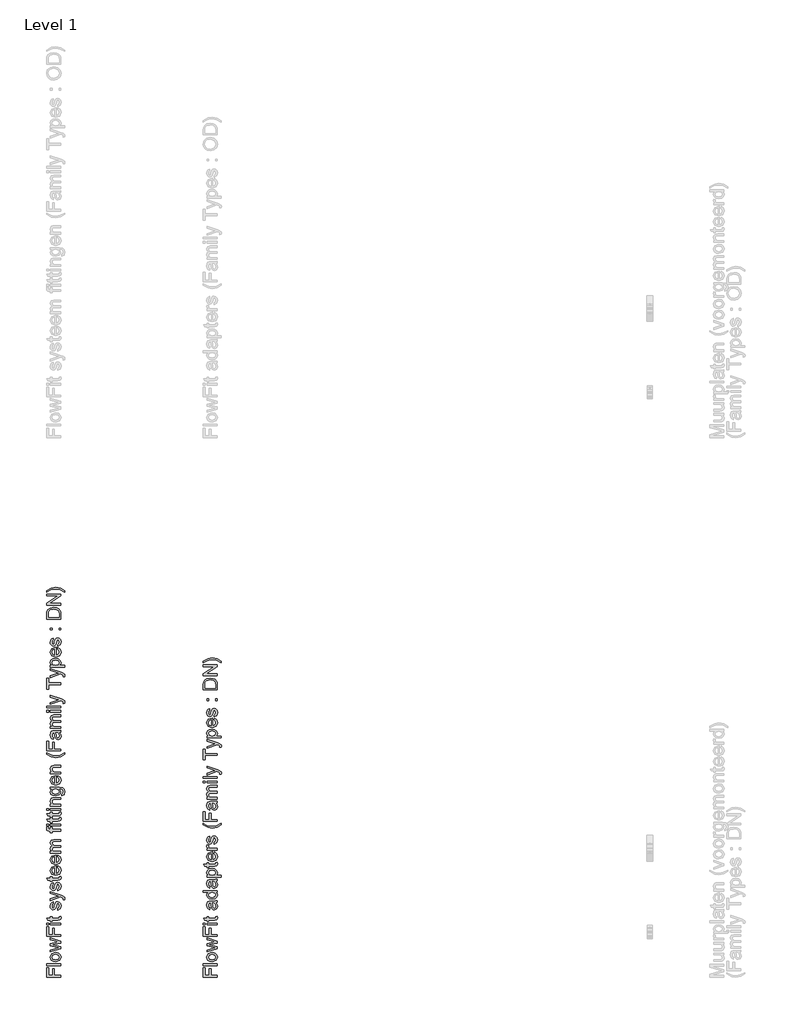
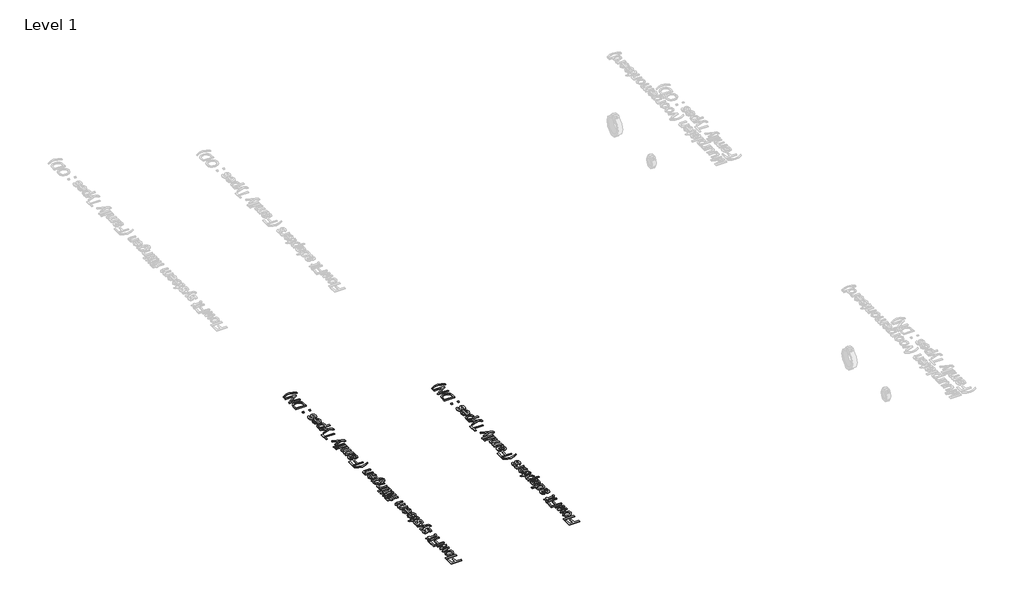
# One storey, part 3 of 11: 2 proxies.
"""IFC4 building model written with IfcOpenShell, lengths in millimetres."""

from ifc_helpers import new_model, si_unit, origin, origin_with_axes, place, context, project, spatial, polyline, outline, extrude, element, save

model = new_model("IFC4")

# Units and contexts
model_context = context("Model", 3, world=origin())
ifc_project = project(units=[si_unit("LENGTHUNIT", "METRE", prefix="MILLI")], contexts=[model_context])

# Site, building, storey
site = spatial("IfcSite", under=ifc_project)
building = spatial("IfcBuilding", under=site)
storey = spatial("IfcBuildingStorey", under=building, Name="Level 1", Elevation=0.0)

# Proxies
placement = place(None, origin())
element("IfcBuildingElementProxy", 1, Name="S", ObjectType="S", at=placement, inside=storey, context=model_context, shape_type="SweptSolid", body=[
    extrude(outline(polyline([(191.7931305, 128.4123634), (141.5649754, 128.4123634), (141.5649754, 162.1594051), (147.8434948, 162.1594051), (147.8434948, 134.6908828), (162.7549783, 134.6908828), (162.7549783, 158.2353305), (169.0334977, 158.2353305), (169.0334977, 134.6908828), (191.7931305, 134.6908828), (191.7931305, 128.4123634)])), origin_with_axes(), (0.0, 0.0, 1.0), 3.0),
    extrude(outline(polyline([(191.7931305, 170.0075544), (141.5649754, 170.0075544), (141.5649754, 176.2860737), (191.7931305, 176.2860737), (191.7931305, 170.0075544)])), origin_with_axes(), (0.0, 0.0, 1.0), 3.0),
    extrude(outline(polyline([(173.3499798, 184.134223), (164.4564326, 185.4923207), (158.2055043, 189.5666138), (154.1220142, 200.6275991), (159.0945525, 212.4917934), (172.834945, 217.0964497), (184.0062949, 215.060836), (190.3277339, 209.1318045), (192.5779454, 200.6275991), (187.6238012, 188.6898283), (173.3499798, 184.134223)]), holes=[polyline([(173.3377171, 190.4127424), (183.0681958, 193.3190101), (186.299426, 200.6275991), (183.0498017, 207.9116626), (173.1415133, 210.8179304), (163.6317638, 207.8932685), (160.4005336, 200.6275991), (163.619501, 193.3190101), (173.3377171, 190.4127424)])]), origin_with_axes(), (0.0, 0.0, 1.0), 3.0),
    extrude(outline(polyline([(191.7931305, 230.2788879), (154.9068291, 219.058487), (154.9068291, 225.5822611), (176.4279258, 231.9466196), (184.1166595, 233.8473433), (176.7099687, 235.4047104), (154.9068291, 240.4692192), (154.9068291, 247.9494864), (176.648655, 252.9894697), (183.3563701, 254.3751586), (176.280773, 256.3617214), (154.9068291, 262.7383426), (154.9068291, 269.2866421), (191.7931305, 257.9804021), (191.7931305, 250.3897703), (170.1616692, 245.5705162), (163.4171659, 244.1725646), (191.7931305, 237.9553589), (191.7931305, 230.2788879)])), origin_with_axes(), (0.0, 0.0, 1.0), 3.0),
    extrude(outline(polyline([(191.7931305, 274.3879391), (141.5649754, 274.3879391), (141.5649754, 308.1349808), (147.8434948, 308.1349808), (147.8434948, 280.6664585), (162.7549783, 280.6664585), (162.7549783, 304.2109062), (169.0334977, 304.2109062), (169.0334977, 280.6664585), (191.7931305, 280.6664585), (191.7931305, 274.3879391)])), origin_with_axes(), (0.0, 0.0, 1.0), 3.0),
    extrude(outline(polyline([(191.7931305, 315.98313), (154.9068291, 315.98313), (154.9068291, 322.2616494), (191.7931305, 322.2616494), (191.7931305, 315.98313)])), origin_with_axes(), (0.0, 0.0, 1.0), 3.0),
    extrude(outline(polyline([(147.8434948, 315.98313), (141.5649754, 315.98313), (141.5649754, 322.2616494), (147.8434948, 322.2616494), (147.8434948, 315.98313)])), origin_with_axes(), (0.0, 0.0, 1.0), 3.0),
    extrude(outline(polyline([(186.5569434, 345.0212822), (191.9770715, 345.8060971), (192.5779454, 341.1094703), (191.5356131, 335.8487578), (188.8010236, 333.2245329), (181.6763756, 332.4642434), (161.1853485, 332.4642434), (161.1853485, 327.7553539), (154.9068291, 327.7553539), (154.9068291, 332.4642434), (145.9427712, 332.4642434), (142.2516885, 338.7427628), (154.9068291, 338.7427628), (154.9068291, 345.0212822), (161.1853485, 345.0212822), (161.1853485, 338.7427628), (181.4924346, 338.7427628), (184.7297962, 339.0738566), (186.299426, 342.2866927), (186.5569434, 345.0212822)])), origin_with_axes(), (0.0, 0.0, 1.0), 3.0),
    extrude(outline(polyline([(180.8057216, 368.5657299), (180.0209066, 374.8442493), (184.6807453, 377.750517), (186.299426, 384.4091811), (184.8156353, 390.8103279), (181.3330191, 392.8949925), (178.5125905, 390.7980651), (176.7222314, 384.3356047), (173.6504168, 374.8810375), (170.0635673, 370.7546278), (164.9990585, 369.3505448), (160.3208258, 370.4787163), (156.7462391, 373.5566623), (154.888435, 377.5481819), (154.1220142, 382.9499159), (155.3544189, 390.5895987), (158.6898823, 395.445641), (164.3246082, 397.603882), (165.1094231, 391.3253627), (161.645201, 388.9647865), (160.4005336, 383.4404252), (161.5900187, 377.431686), (164.3613964, 375.6290642), (166.1885436, 376.3770909), (167.5742325, 378.719273), (168.9108704, 384.1271383), (171.8661891, 393.3425823), (175.2139152, 397.6222761), (180.6708315, 399.1735119), (186.6795708, 397.352496), (191.0389724, 392.0979148), (192.5779454, 384.323342), (189.610364, 373.3727213), (180.8057216, 368.5657299)])), origin_with_axes(), (0.0, 0.0, 1.0), 3.0),
    extrude(outline(polyline([(205.9197991, 406.2368462), (199.8742717, 405.4520313), (200.4260946, 408.6403419), (199.7332502, 411.6201861), (197.8018697, 413.4473333), (193.1788193, 415.1641159), (191.6582404, 415.6546253), (154.9068291, 402.3127716), (154.9068291, 408.9346475), (175.3855935, 416.0102445), (183.5770993, 418.4750539), (176.3420867, 420.9398633), (154.9068291, 428.211664), (154.9068291, 434.784489), (192.6760473, 421.9454074), (200.867553, 418.609944), (205.2943997, 414.9679122), (206.704614, 410.0750817), (205.9197991, 406.2368462)])), origin_with_axes(), (0.0, 0.0, 1.0), 3.0),
    extrude(outline(polyline([(180.8057216, 437.6294431), (180.0209066, 443.9079625), (184.6807453, 446.8142303), (186.299426, 453.4728944), (184.8156353, 459.8740411), (181.3330191, 461.9587057), (178.5125905, 459.8617784), (176.7222314, 453.399318), (173.6504168, 443.9447507), (170.0635673, 439.818341), (164.9990585, 438.414258), (160.3208258, 439.5424295), (156.7462391, 442.6203755), (154.888435, 446.6118952), (154.1220142, 452.0136291), (155.3544189, 459.6533119), (158.6898823, 464.5093542), (164.3246082, 466.6675953), (165.1094231, 460.3890759), (161.645201, 458.0284997), (160.4005336, 452.5041385), (161.5900187, 446.4953992), (164.3613964, 444.6927774), (166.1885436, 445.4408041), (167.5742325, 447.7829862), (168.9108704, 453.1908515), (171.8661891, 462.4062955), (175.2139152, 466.6859894), (180.6708315, 468.2372251), (186.6795708, 466.4162092), (191.0389724, 461.1616281), (192.5779454, 453.3870552), (189.610364, 442.4364345), (180.8057216, 437.6294431)])), origin_with_axes(), (0.0, 0.0, 1.0), 3.0),
    extrude(outline(polyline([(186.5569434, 488.6424131), (191.9770715, 489.427228), (192.5779454, 484.7306012), (191.5356131, 479.4698887), (188.8010236, 476.8456638), (181.6763756, 476.0853743), (161.1853485, 476.0853743), (161.1853485, 471.3764848), (154.9068291, 471.3764848), (154.9068291, 476.0853743), (145.9427712, 476.0853743), (142.2516885, 482.3638937), (154.9068291, 482.3638937), (154.9068291, 488.6424131), (161.1853485, 488.6424131), (161.1853485, 482.3638937), (181.4924346, 482.3638937), (184.7297962, 482.6949875), (186.299426, 485.9078236), (186.5569434, 488.6424131)])), origin_with_axes(), (0.0, 0.0, 1.0), 3.0),
    extrude(outline(polyline([(180.8057216, 520.7462486), (181.5905365, 526.9021406), (189.6962031, 521.1447874), (192.5779454, 510.4210272), (187.6054071, 497.3857419), (173.6565481, 492.5664877), (159.2478367, 497.4347928), (154.1220142, 510.065408), (159.2355739, 522.3342725), (173.6197599, 527.0983443), (175.3120171, 527.0615561), (175.3120171, 498.8450071), (183.4667347, 502.456382), (186.299426, 510.5436546), (184.9873136, 516.6995466), (180.8057216, 520.7462486)]), holes=[polyline([(169.0334977, 498.8450071), (169.0334977, 520.819825), (163.3435895, 518.3059647), (160.4005336, 510.0408825), (162.748847, 502.3092292), (169.0334977, 498.8450071)])]), origin_with_axes(), (0.0, 0.0, 1.0), 3.0),
    extrude(outline(polyline([(180.8057216, 559.2021798), (181.5905365, 565.3580718), (189.6962031, 559.6007186), (192.5779454, 548.8769585), (187.6054071, 535.8416731), (173.6565481, 531.022419), (159.2478367, 535.890724), (154.1220142, 548.5213392), (159.2355739, 560.7902037), (173.6197599, 565.5542756), (175.3120171, 565.5174874), (175.3120171, 537.3009383), (183.4667347, 540.9123133), (186.299426, 548.9995858), (184.9873136, 555.1554778), (180.8057216, 559.2021798)]), holes=[polyline([(169.0334977, 537.3009383), (169.0334977, 559.2757562), (163.3435895, 556.7618959), (160.4005336, 548.4968137), (162.748847, 540.7651605), (169.0334977, 537.3009383)])]), origin_with_axes(), (0.0, 0.0, 1.0), 3.0),
    extrude(outline(polyline([(191.7931305, 571.832795), (154.9068291, 571.832795), (154.9068291, 578.1113143), (160.976882, 578.1113143), (156.0043437, 582.4277964), (154.1220142, 588.5714257), (156.0411319, 594.8622079), (161.4183404, 598.3202986), (155.9460957, 603.2192605), (154.1220142, 609.4058094), (157.1570406, 617.6157093), (166.5073747, 620.4913202), (191.7931305, 620.4913202), (191.7931305, 614.2128008), (169.205176, 614.2128008), (163.9628576, 613.630321), (161.3815522, 611.5211309), (160.4005336, 607.9342814), (162.9143939, 601.7599953), (170.9710096, 599.3013173), (191.7931305, 599.3013173), (191.7931305, 593.0227979), (168.5062002, 593.0227979), (162.4238845, 591.569664), (160.4005336, 586.8055922), (161.7494342, 582.1580163), (165.6980343, 579.0678075), (173.1905643, 578.1113143), (191.7931305, 578.1113143), (191.7931305, 571.832795)])), origin_with_axes(), (0.0, 0.0, 1.0), 3.0),
    extrude(outline(polyline([(191.7931305, 651.0991022), (161.1853485, 651.0991022), (161.1853485, 645.6053977), (154.9068291, 645.6053977), (154.9068291, 651.0991022), (151.191221, 651.0991022), (145.9550339, 651.7612898), (142.2149003, 654.9741259), (140.7801605, 661.3016962), (141.4668736, 667.0283926), (147.3529855, 666.1086876), (147.0586799, 662.4911813), (148.1010122, 658.5364499), (151.9882986, 657.3776216), (154.9068291, 657.3776216), (154.9068291, 664.4409559), (161.1853485, 664.4409559), (161.1853485, 657.3776216), (191.7931305, 657.3776216), (191.7931305, 651.0991022)])), origin_with_axes(), (0.0, 0.0, 1.0), 3.0),
    extrude(outline(polyline([(147.8434948, 669.9346603), (141.5649754, 669.9346603), (141.5649754, 676.2131797), (147.8434948, 676.2131797), (147.8434948, 669.9346603)])), origin_with_axes(), (0.0, 0.0, 1.0), 3.0),
    extrude(outline(polyline([(191.7931305, 669.9346603), (154.9068291, 669.9346603), (154.9068291, 676.2131797), (191.7931305, 676.2131797), (191.7931305, 669.9346603)])), origin_with_axes(), (0.0, 0.0, 1.0), 3.0),
    extrude(outline(polyline([(186.5569434, 698.9728125), (191.9770715, 699.7576274), (192.5779454, 695.0610006), (191.5356131, 689.8002881), (188.8010236, 687.1760632), (181.6763756, 686.4157737), (161.1853485, 686.4157737), (161.1853485, 681.7068842), (154.9068291, 681.7068842), (154.9068291, 686.4157737), (145.9427712, 686.4157737), (142.2516885, 692.6942931), (154.9068291, 692.6942931), (154.9068291, 698.9728125), (161.1853485, 698.9728125), (161.1853485, 692.6942931), (181.4924346, 692.6942931), (184.7297962, 693.0253869), (186.299426, 696.238223), (186.5569434, 698.9728125)])), origin_with_axes(), (0.0, 0.0, 1.0), 3.0),
    extrude(outline(polyline([(186.5569434, 718.5931856), (191.9770715, 719.3780005), (192.5779454, 714.6813737), (191.5356131, 709.4206612), (188.8010236, 706.7964363), (181.6763756, 706.0361468), (161.1853485, 706.0361468), (161.1853485, 701.3272573), (154.9068291, 701.3272573), (154.9068291, 706.0361468), (145.9427712, 706.0361468), (142.2516885, 712.3146662), (154.9068291, 712.3146662), (154.9068291, 718.5931856), (161.1853485, 718.5931856), (161.1853485, 712.3146662), (181.4924346, 712.3146662), (184.7297962, 712.64576), (186.299426, 715.8585961), (186.5569434, 718.5931856)])), origin_with_axes(), (0.0, 0.0, 1.0), 3.0),
    extrude(outline(polyline([(147.8434948, 724.8717049), (141.5649754, 724.8717049), (141.5649754, 731.1502243), (147.8434948, 731.1502243), (147.8434948, 724.8717049)])), origin_with_axes(), (0.0, 0.0, 1.0), 3.0),
    extrude(outline(polyline([(191.7931305, 724.8717049), (154.9068291, 724.8717049), (154.9068291, 731.1502243), (191.7931305, 731.1502243), (191.7931305, 724.8717049)])), origin_with_axes(), (0.0, 0.0, 1.0), 3.0),
    extrude(outline(polyline([(191.7931305, 740.5680034), (154.9068291, 740.5680034), (154.9068291, 746.8465228), (160.057177, 746.8465228), (155.6058049, 751.6473828), (154.1220142, 758.2018137), (155.3176307, 764.1308452), (158.4568904, 768.1775471), (163.0738094, 770.0598767), (169.1438623, 770.3909705), (191.7931305, 770.3909705), (191.7931305, 764.1124511), (169.9899909, 764.1124511), (164.4349728, 763.3889498), (161.4980482, 760.83217), (160.4005336, 756.5218193), (162.8653429, 749.709871), (172.2218083, 746.8465228), (191.7931305, 746.8465228), (191.7931305, 740.5680034)])), origin_with_axes(), (0.0, 0.0, 1.0), 3.0),
    extrude(outline(polyline([(194.9323902, 777.4543048), (195.7172051, 783.7328242), (199.0281431, 785.7684379), (200.4260946, 791.8630163), (198.8442021, 798.2886885), (194.4050927, 801.3543717), (187.084241, 801.7835674), (191.7931305, 791.9733809), (190.4227701, 785.5001906), (186.3116888, 780.6732723), (173.1660388, 776.6694899), (163.43556, 778.4659803), (156.5500354, 783.6653791), (154.1220142, 791.6668125), (159.6157186, 801.7835674), (154.9068291, 801.7835674), (154.9068291, 808.0620868), (186.7531472, 808.0620868), (198.9484353, 806.3453041), (204.6199494, 800.906782), (206.704614, 791.7403889), (203.7676894, 781.2986716), (194.9323902, 777.4543048)]), holes=[polyline([(172.7368431, 782.9480093), (182.4550592, 785.6274165), (185.5146111, 792.3535256), (182.4734533, 799.067372), (172.9207841, 801.7835674), (163.5581874, 798.9876642), (160.4005336, 792.2554237), (163.5091364, 785.6642047), (172.7368431, 782.9480093)])]), origin_with_axes(), (0.0, 0.0, 1.0), 3.0),
    extrude(outline(polyline([(180.8057216, 843.3051819), (181.5905365, 849.461074), (189.6962031, 843.7037208), (192.5779454, 832.9799606), (187.6054071, 819.9446752), (173.6565481, 815.1254211), (159.2478367, 819.9937262), (154.1220142, 832.6243413), (159.2355739, 844.8932059), (173.6197599, 849.6572777), (175.3120171, 849.6204895), (175.3120171, 821.4039405), (183.4667347, 825.0153154), (186.299426, 833.1025879), (184.9873136, 839.25848), (180.8057216, 843.3051819)]), holes=[polyline([(169.0334977, 821.4039405), (169.0334977, 843.3787583), (163.3435895, 840.864898), (160.4005336, 832.5998159), (162.748847, 824.8681626), (169.0334977, 821.4039405)])]), origin_with_axes(), (0.0, 0.0, 1.0), 3.0),
    extrude(outline(polyline([(191.7931305, 855.9357971), (154.9068291, 855.9357971), (154.9068291, 862.2143165), (160.057177, 862.2143165), (155.6058049, 867.0151765), (154.1220142, 873.5696074), (155.3176307, 879.4986389), (158.4568904, 883.5453408), (163.0738094, 885.4276704), (169.1438623, 885.7587642), (191.7931305, 885.7587642), (191.7931305, 879.4802448), (169.9899909, 879.4802448), (164.4349728, 878.7567435), (161.4980482, 876.1999637), (160.4005336, 871.889613), (162.8653429, 865.0776647), (172.2218083, 862.2143165), (191.7931305, 862.2143165), (191.7931305, 855.9357971)])), origin_with_axes(), (0.0, 0.0, 1.0), 3.0),
    extrude(outline(polyline([(205.9197991, 926.5691402), (191.1922566, 917.6541332), (173.7055991, 914.0121014), (158.4384963, 916.7344282), (141.5649754, 926.5691402), (141.5649754, 931.2780297), (151.510052, 925.4041805), (161.1485603, 921.8725134), (173.7423873, 920.2906208), (189.8372246, 923.037473), (205.9197991, 931.2780297), (205.9197991, 926.5691402)])), origin_with_axes(), (0.0, 0.0, 1.0), 3.0),
    extrude(outline(polyline([(191.7931305, 938.341364), (141.5649754, 938.341364), (141.5649754, 972.0884057), (147.8434948, 972.0884057), (147.8434948, 944.6198834), (162.7549783, 944.6198834), (162.7549783, 968.1643311), (169.0334977, 968.1643311), (169.0334977, 944.6198834), (191.7931305, 944.6198834), (191.7931305, 938.341364)])), origin_with_axes(), (0.0, 0.0, 1.0), 3.0),
    extrude(outline(polyline([(187.084241, 1003.4810026), (191.3394094, 997.3925556), (192.5779454, 990.6664465), (189.5981013, 981.5491044), (181.982944, 978.3669251), (177.016537, 979.5686729), (173.4112935, 982.7263267), (171.3511543, 987.1225166), (170.4069238, 992.5549074), (168.2486828, 1003.4442144), (162.2154181, 1001.7519573), (160.4005336, 994.8112503), (161.6084128, 988.4591545), (165.894238, 985.4302594), (165.1094231, 979.15174), (158.9780565, 981.8679354), (155.3850757, 987.3371144), (154.1220142, 995.6205907), (155.2379229, 1003.2296166), (158.0399574, 1007.5277046), (162.3012572, 1009.4529537), (167.7949617, 1009.759522), (175.6063227, 1009.759522), (186.5140239, 1010.0783531), (191.7931305, 1011.3291519), (191.7931305, 1005.0506325), (187.084241, 1003.4810026)]), holes=[polyline([(174.5272022, 1003.4810026), (176.4524513, 993.351985), (177.4702581, 987.9502511), (179.1257271, 985.5038358), (181.5414856, 984.6454445), (184.9382626, 986.5155113), (186.299426, 992.0030844), (184.7972412, 998.3551802), (181.1613408, 1002.450933), (176.3052985, 1003.4442144), (174.5272022, 1003.4810026)])]), origin_with_axes(), (0.0, 0.0, 1.0), 3.0),
    extrude(outline(polyline([(191.7931305, 1018.3924862), (154.9068291, 1018.3924862), (154.9068291, 1024.6710056), (160.976882, 1024.6710056), (156.0043437, 1028.9874876), (154.1220142, 1035.1311169), (156.0411319, 1041.4218991), (161.4183404, 1044.8799898), (155.9460957, 1049.7789517), (154.1220142, 1055.9655006), (157.1570406, 1064.1754005), (166.5073747, 1067.0510114), (191.7931305, 1067.0510114), (191.7931305, 1060.772492), (169.205176, 1060.772492), (163.9628576, 1060.1900122), (161.3815522, 1058.0808221), (160.4005336, 1054.4939726), (162.9143939, 1048.3196865), (170.9710096, 1045.8610085), (191.7931305, 1045.8610085), (191.7931305, 1039.5824891), (168.5062002, 1039.5824891), (162.4238845, 1038.1293552), (160.4005336, 1033.3652834), (161.7494342, 1028.7177075), (165.6980343, 1025.6274987), (173.1905643, 1024.6710056), (191.7931305, 1024.6710056), (191.7931305, 1018.3924862)])), origin_with_axes(), (0.0, 0.0, 1.0), 3.0),
    extrude(outline(polyline([(147.8434948, 1076.4687905), (141.5649754, 1076.4687905), (141.5649754, 1082.7473099), (147.8434948, 1082.7473099), (147.8434948, 1076.4687905)])), origin_with_axes(), (0.0, 0.0, 1.0), 3.0),
    extrude(outline(polyline([(191.7931305, 1076.4687905), (154.9068291, 1076.4687905), (154.9068291, 1082.7473099), (191.7931305, 1082.7473099), (191.7931305, 1076.4687905)])), origin_with_axes(), (0.0, 0.0, 1.0), 3.0),
    extrude(outline(polyline([(191.7931305, 1092.1650889), (141.5649754, 1092.1650889), (141.5649754, 1098.4436083), (191.7931305, 1098.4436083), (191.7931305, 1092.1650889)])), origin_with_axes(), (0.0, 0.0, 1.0), 3.0),
    extrude(outline(polyline([(205.9197991, 1107.8613874), (199.8742717, 1107.0765725), (200.4260946, 1110.2648831), (199.7332502, 1113.2447273), (197.8018697, 1115.0718745), (193.1788193, 1116.7886571), (191.6582404, 1117.2791665), (154.9068291, 1103.9373128), (154.9068291, 1110.5591887), (175.3855935, 1117.6347857), (183.5770993, 1120.0995951), (176.3420867, 1122.5644045), (154.9068291, 1129.8362052), (154.9068291, 1136.4090302), (192.6760473, 1123.5699486), (200.867553, 1120.2344852), (205.2943997, 1116.5924534), (206.704614, 1111.6996229), (205.9197991, 1107.8613874)])), origin_with_axes(), (0.0, 0.0, 1.0), 3.0),
    extrude(outline(polyline([(191.7931305, 1174.5706559), (147.8434948, 1174.5706559), (147.8434948, 1158.0895425), (141.5649754, 1158.0895425), (141.5649754, 1197.3302886), (147.8434948, 1197.3302886), (147.8434948, 1180.8491752), (191.7931305, 1180.8491752), (191.7931305, 1174.5706559)])), origin_with_axes(), (0.0, 0.0, 1.0), 3.0),
    extrude(outline(polyline([(205.9197991, 1203.608808), (199.8742717, 1202.8239931), (200.4260946, 1206.0123037), (199.7332502, 1208.9921479), (197.8018697, 1210.8192951), (193.1788193, 1212.5360778), (191.6582404, 1213.0265871), (154.9068291, 1199.6847334), (154.9068291, 1206.3066093), (175.3855935, 1213.3822063), (183.5770993, 1215.8470157), (176.3420867, 1218.3118251), (154.9068291, 1225.5836259), (154.9068291, 1232.1564508), (192.6760473, 1219.3173692), (200.867553, 1215.9819058), (205.2943997, 1212.339874), (206.704614, 1207.4470435), (205.9197991, 1203.608808)])), origin_with_axes(), (0.0, 0.0, 1.0), 3.0),
    extrude(outline(polyline([(205.9197991, 1237.3558497), (154.9068291, 1237.3558497), (154.9068291, 1243.6343691), (161.0627212, 1243.6343691), (155.8571909, 1247.9753766), (154.1220142, 1253.8369631), (156.5500354, 1261.7954769), (163.3926405, 1266.9948758), (173.0679369, 1268.7484466), (183.2398741, 1266.7680152), (190.1683183, 1261.0167934), (192.5779454, 1253.0766736), (190.965396, 1247.613626), (186.8880372, 1243.6343691), (205.9197991, 1243.6343691), (205.9197991, 1237.3558497)]), holes=[polyline([(173.6442854, 1243.6343691), (183.2092173, 1246.3505645), (186.299426, 1252.9417836), (183.0988527, 1259.6678927), (173.1783015, 1262.4699272), (163.5888442, 1259.7353377), (160.4005336, 1253.199301), (163.7911793, 1246.5345055), (173.6442854, 1243.6343691)])]), origin_with_axes(), (0.0, 0.0, 1.0), 3.0),
    extrude(outline(polyline([(180.8057216, 1301.637097), (181.5905365, 1307.792989), (189.6962031, 1302.0356358), (192.5779454, 1291.3118757), (187.6054071, 1278.2765903), (173.6565481, 1273.4573362), (159.2478367, 1278.3256412), (154.1220142, 1290.9562564), (159.2355739, 1303.2251209), (173.6197599, 1307.9891928), (175.3120171, 1307.9524046), (175.3120171, 1279.7358555), (183.4667347, 1283.3472305), (186.299426, 1291.434503), (184.9873136, 1297.590395), (180.8057216, 1301.637097)]), holes=[polyline([(169.0334977, 1279.7358555), (169.0334977, 1301.7106734), (163.3435895, 1299.1968131), (160.4005336, 1290.9317309), (162.748847, 1283.2000777), (169.0334977, 1279.7358555)])]), origin_with_axes(), (0.0, 0.0, 1.0), 3.0),
    extrude(outline(polyline([(180.8057216, 1311.9132674), (180.0209066, 1318.1917868), (184.6807453, 1321.0980545), (186.299426, 1327.7567186), (184.8156353, 1334.1578654), (181.3330191, 1336.24253), (178.5125905, 1334.1456026), (176.7222314, 1327.6831422), (173.6504168, 1318.228575), (170.0635673, 1314.1021653), (164.9990585, 1312.6980823), (160.3208258, 1313.8262538), (156.7462391, 1316.9041998), (154.888435, 1320.8957194), (154.1220142, 1326.2974534), (155.3544189, 1333.9371362), (158.6898823, 1338.7931785), (164.3246082, 1340.9514195), (165.1094231, 1334.6729002), (161.645201, 1332.312324), (160.4005336, 1326.7879627), (161.5900187, 1320.7792235), (164.3613964, 1318.9766017), (166.1885436, 1319.7246284), (167.5742325, 1322.0668105), (168.9108704, 1327.4746758), (171.8661891, 1336.6901198), (175.2139152, 1340.9698136), (180.6708315, 1342.5210494), (186.6795708, 1340.7000335), (191.0389724, 1335.4454523), (192.5779454, 1327.6708795), (189.610364, 1316.7202588), (180.8057216, 1311.9132674)])), origin_with_axes(), (0.0, 0.0, 1.0), 3.0),
    extrude(outline(polyline([(161.1853485, 1370.7743866), (154.9068291, 1370.7743866), (154.9068291, 1377.052906), (161.1853485, 1377.052906), (161.1853485, 1370.7743866)])), origin_with_axes(), (0.0, 0.0, 1.0), 3.0),
    extrude(outline(polyline([(191.7931305, 1370.7743866), (185.5146111, 1370.7743866), (185.5146111, 1377.052906), (191.7931305, 1377.052906), (191.7931305, 1370.7743866)])), origin_with_axes(), (0.0, 0.0, 1.0), 3.0),
    extrude(outline(polyline([(191.7931305, 1409.2303178), (141.5649754, 1409.2303178), (141.5649754, 1426.5575598), (142.2884767, 1435.5216178), (145.8814575, 1442.9037831), (154.4653707, 1448.8512087), (166.4092728, 1450.8255088), (176.5444218, 1449.4888708), (183.8591421, 1446.0553056), (188.4147475, 1441.4690434), (190.9347392, 1435.4664355), (191.7931305, 1427.3914257), (191.7931305, 1409.2303178)]), holes=[polyline([(185.5146111, 1415.5088372), (185.5146111, 1426.6188735), (184.6071689, 1434.7000146), (182.0442576, 1439.3598532), (175.8086578, 1443.1796946), (166.311171, 1444.5469894), (154.4163198, 1441.8675822), (148.8490389, 1435.3499395), (147.8434948, 1426.4471952), (147.8434948, 1415.5088372), (185.5146111, 1415.5088372)])]), origin_with_axes(), (0.0, 0.0, 1.0), 3.0),
    extrude(outline(polyline([(191.7931305, 1459.4584729), (141.5649754, 1459.4584729), (141.5649754, 1466.1784507), (181.3575446, 1492.4206997), (141.5649754, 1492.4206997), (141.5649754, 1498.6992191), (191.7931305, 1498.6992191), (191.7931305, 1491.9792413), (151.9882986, 1465.7369923), (191.7931305, 1465.7369923), (191.7931305, 1459.4584729)])), origin_with_axes(), (0.0, 0.0, 1.0), 3.0),
    extrude(outline(polyline([(205.9197991, 1510.4714429), (205.9197991, 1505.7625534), (189.8372246, 1514.0031101), (173.7423873, 1516.7499623), (161.2589249, 1515.1680697), (151.6081539, 1511.6731908), (141.5649754, 1505.7625534), (141.5649754, 1510.4714429), (158.4384963, 1520.3061549), (173.7055991, 1523.0284817), (191.1922566, 1519.3680558), (205.9197991, 1510.4714429)])), origin_with_axes(), (0.0, 0.0, 1.0), 3.0),
])
element("IfcBuildingElementProxy", 2, Name="S", ObjectType="S", at=placement, inside=storey, context=model_context, shape_type="SweptSolid", body=[
    extrude(outline(polyline([(751.7931305, 128.4123634), (701.5649754, 128.4123634), (701.5649754, 162.1594051), (707.8434948, 162.1594051), (707.8434948, 134.6908828), (722.7549783, 134.6908828), (722.7549783, 158.2353305), (729.0334977, 158.2353305), (729.0334977, 134.6908828), (751.7931305, 134.6908828), (751.7931305, 128.4123634)])), origin_with_axes(), (0.0, 0.0, 1.0), 3.0),
    extrude(outline(polyline([(751.7931305, 170.0075544), (701.5649754, 170.0075544), (701.5649754, 176.2860737), (751.7931305, 176.2860737), (751.7931305, 170.0075544)])), origin_with_axes(), (0.0, 0.0, 1.0), 3.0),
    extrude(outline(polyline([(733.3499798, 184.134223), (724.4564326, 185.4923207), (718.2055043, 189.5666138), (714.1220142, 200.6275991), (719.0945525, 212.4917934), (732.834945, 217.0964497), (744.0062949, 215.060836), (750.3277339, 209.1318045), (752.5779454, 200.6275991), (747.6238012, 188.6898283), (733.3499798, 184.134223)]), holes=[polyline([(733.3377171, 190.4127424), (743.0681958, 193.3190101), (746.299426, 200.6275991), (743.0498017, 207.9116626), (733.1415133, 210.8179304), (723.6317638, 207.8932685), (720.4005336, 200.6275991), (723.619501, 193.3190101), (733.3377171, 190.4127424)])]), origin_with_axes(), (0.0, 0.0, 1.0), 3.0),
    extrude(outline(polyline([(751.7931305, 230.2788879), (714.9068291, 219.058487), (714.9068291, 225.5822611), (736.4279258, 231.9466196), (744.1166595, 233.8473433), (736.7099687, 235.4047104), (714.9068291, 240.4692192), (714.9068291, 247.9494864), (736.648655, 252.9894697), (743.3563701, 254.3751586), (736.280773, 256.3617214), (714.9068291, 262.7383426), (714.9068291, 269.2866421), (751.7931305, 257.9804021), (751.7931305, 250.3897703), (730.1616692, 245.5705162), (723.4171659, 244.1725646), (751.7931305, 237.9553589), (751.7931305, 230.2788879)])), origin_with_axes(), (0.0, 0.0, 1.0), 3.0),
    extrude(outline(polyline([(751.7931305, 274.3879391), (701.5649754, 274.3879391), (701.5649754, 308.1349808), (707.8434948, 308.1349808), (707.8434948, 280.6664585), (722.7549783, 280.6664585), (722.7549783, 304.2109062), (729.0334977, 304.2109062), (729.0334977, 280.6664585), (751.7931305, 280.6664585), (751.7931305, 274.3879391)])), origin_with_axes(), (0.0, 0.0, 1.0), 3.0),
    extrude(outline(polyline([(751.7931305, 315.98313), (714.9068291, 315.98313), (714.9068291, 322.2616494), (751.7931305, 322.2616494), (751.7931305, 315.98313)])), origin_with_axes(), (0.0, 0.0, 1.0), 3.0),
    extrude(outline(polyline([(707.8434948, 315.98313), (701.5649754, 315.98313), (701.5649754, 322.2616494), (707.8434948, 322.2616494), (707.8434948, 315.98313)])), origin_with_axes(), (0.0, 0.0, 1.0), 3.0),
    extrude(outline(polyline([(746.5569434, 345.0212822), (751.9770715, 345.8060971), (752.5779454, 341.1094703), (751.5356131, 335.8487578), (748.8010236, 333.2245329), (741.6763756, 332.4642434), (721.1853485, 332.4642434), (721.1853485, 327.7553539), (714.9068291, 327.7553539), (714.9068291, 332.4642434), (705.9427712, 332.4642434), (702.2516885, 338.7427628), (714.9068291, 338.7427628), (714.9068291, 345.0212822), (721.1853485, 345.0212822), (721.1853485, 338.7427628), (741.4924346, 338.7427628), (744.7297962, 339.0738566), (746.299426, 342.2866927), (746.5569434, 345.0212822)])), origin_with_axes(), (0.0, 0.0, 1.0), 3.0),
    extrude(outline(polyline([(747.084241, 394.4646223), (751.3394094, 388.3761753), (752.5779454, 381.6500662), (749.5981013, 372.5327241), (741.982944, 369.3505448), (737.016537, 370.5522927), (733.4112935, 373.7099465), (731.3511543, 378.1061363), (730.4069238, 383.5385271), (728.2486828, 394.4278341), (722.2154181, 392.735577), (720.4005336, 385.79487), (721.6084128, 379.4427742), (725.894238, 376.4138791), (725.1094231, 370.1353597), (718.9780565, 372.8515551), (715.3850757, 378.3207341), (714.1220142, 386.6042104), (715.2379229, 394.2132363), (718.0399574, 398.5113243), (722.3012572, 400.4365734), (727.7949617, 400.7431417), (735.6063227, 400.7431417), (746.5140239, 401.0619728), (751.7931305, 402.3127716), (751.7931305, 396.0342522), (747.084241, 394.4646223)]), holes=[polyline([(734.5272022, 394.4646223), (736.4524513, 384.3356047), (737.4702581, 378.9338708), (739.1257271, 376.4874555), (741.5414856, 375.6290642), (744.9382626, 377.499131), (746.299426, 382.9867041), (744.7972412, 389.3387999), (741.1613408, 393.4345528), (736.3052985, 394.4278341), (734.5272022, 394.4646223)])]), origin_with_axes(), (0.0, 0.0, 1.0), 3.0),
    extrude(outline(polyline([(751.7931305, 432.1357387), (745.8702304, 432.1357387), (750.9010167, 427.9817378), (752.5779454, 422.239713), (750.1499242, 414.4651402), (743.3747642, 408.9714357), (733.386768, 407.0216611), (723.3926405, 408.8181515), (716.5132472, 414.2014914), (714.1220142, 422.2151875), (715.8326655, 428.0031976), (720.2779062, 432.1357387), (701.5649754, 432.1357387), (701.5649754, 438.414258), (751.7931305, 438.414258), (751.7931305, 432.1357387)]), holes=[polyline([(733.3622425, 413.3001805), (743.0804586, 416.1328719), (746.299426, 422.8160614), (743.2276114, 429.4195433), (733.8404891, 432.1357387), (723.6501579, 429.3704923), (720.4005336, 422.558544), (723.5213992, 415.9489309), (733.3622425, 413.3001805)])]), origin_with_axes(), (0.0, 0.0, 1.0), 3.0),
    extrude(outline(polyline([(747.084241, 471.3764848), (751.3394094, 465.2880378), (752.5779454, 458.5619286), (749.5981013, 449.4445865), (741.982944, 446.2624073), (737.016537, 447.4641551), (733.4112935, 450.6218089), (731.3511543, 455.0179988), (730.4069238, 460.4503895), (728.2486828, 471.3396966), (722.2154181, 469.6474394), (720.4005336, 462.7067325), (721.6084128, 456.3546367), (725.894238, 453.3257416), (725.1094231, 447.0472222), (718.9780565, 449.7634176), (715.3850757, 455.2325966), (714.1220142, 463.5160728), (715.2379229, 471.1250988), (718.0399574, 475.4231868), (722.3012572, 477.3484359), (727.7949617, 477.6550042), (735.6063227, 477.6550042), (746.5140239, 477.9738353), (751.7931305, 479.224634), (751.7931305, 472.9461147), (747.084241, 471.3764848)]), holes=[polyline([(734.5272022, 471.3764848), (736.4524513, 461.2474672), (737.4702581, 455.8457332), (739.1257271, 453.399318), (741.5414856, 452.5409267), (744.9382626, 454.4109935), (746.299426, 459.8985666), (744.7972412, 466.2506623), (741.1613408, 470.3464152), (736.3052985, 471.3396966), (734.5272022, 471.3764848)])]), origin_with_axes(), (0.0, 0.0, 1.0), 3.0),
    extrude(outline(polyline([(765.9197991, 486.2879683), (714.9068291, 486.2879683), (714.9068291, 492.5664877), (721.0627212, 492.5664877), (715.8571909, 496.9074953), (714.1220142, 502.7690817), (716.5500354, 510.7275956), (723.3926405, 515.9269944), (733.0679369, 517.6805653), (743.2398741, 515.7001339), (750.1683183, 509.948912), (752.5779454, 502.0087923), (750.965396, 496.5457446), (746.8880372, 492.5664877), (765.9197991, 492.5664877), (765.9197991, 486.2879683)]), holes=[polyline([(733.6442854, 492.5664877), (743.2092173, 495.2826831), (746.299426, 501.8739022), (743.0988527, 508.6000114), (733.1783015, 511.4020459), (723.5888442, 508.6674564), (720.4005336, 502.1314196), (723.7911793, 495.4666241), (733.6442854, 492.5664877)])]), origin_with_axes(), (0.0, 0.0, 1.0), 3.0),
    extrude(outline(polyline([(746.5569434, 538.0857533), (751.9770715, 538.8705682), (752.5779454, 534.1739414), (751.5356131, 528.9132289), (748.8010236, 526.289004), (741.6763756, 525.5287145), (721.1853485, 525.5287145), (721.1853485, 520.819825), (714.9068291, 520.819825), (714.9068291, 525.5287145), (705.9427712, 525.5287145), (702.2516885, 531.8072339), (714.9068291, 531.8072339), (714.9068291, 538.0857533), (721.1853485, 538.0857533), (721.1853485, 531.8072339), (741.4924346, 531.8072339), (744.7297962, 532.1383277), (746.299426, 535.3511638), (746.5569434, 538.0857533)])), origin_with_axes(), (0.0, 0.0, 1.0), 3.0),
    extrude(outline(polyline([(740.8057216, 570.1895887), (741.5905365, 576.3454808), (749.6962031, 570.5881275), (752.5779454, 559.8643674), (747.6054071, 546.829082), (733.6565481, 542.0098279), (719.2478367, 546.8781329), (714.1220142, 559.5087481), (719.2355739, 571.7776127), (733.6197599, 576.5416845), (735.3120171, 576.5048963), (735.3120171, 548.2883473), (743.4667347, 551.8997222), (746.299426, 559.9869947), (744.9873136, 566.1428868), (740.8057216, 570.1895887)]), holes=[polyline([(729.0334977, 548.2883473), (729.0334977, 570.2631651), (723.3435895, 567.7493048), (720.4005336, 559.4842227), (722.748847, 551.7525694), (729.0334977, 548.2883473)])]), origin_with_axes(), (0.0, 0.0, 1.0), 3.0),
    extrude(outline(polyline([(751.7931305, 582.8202039), (714.9068291, 582.8202039), (714.9068291, 588.3139083), (720.3637454, 588.3139083), (715.3360248, 592.2134575), (714.1220142, 596.1375321), (716.059526, 602.440577), (721.6881206, 600.3436496), (720.4005336, 595.9290656), (721.6390696, 592.3790044), (725.0726349, 590.1165301), (732.4057493, 589.0987233), (751.7931305, 589.0987233), (751.7931305, 582.8202039)])), origin_with_axes(), (0.0, 0.0, 1.0), 3.0),
    extrude(outline(polyline([(740.8057216, 604.0102068), (740.0209066, 610.2887262), (744.6807453, 613.1949939), (746.299426, 619.8536581), (744.8156353, 626.2548048), (741.3330191, 628.3394694), (738.5125905, 626.242542), (736.7222314, 619.7800817), (733.6504168, 610.3255144), (730.0635673, 606.1991047), (724.9990585, 604.7950217), (720.3208258, 605.9231932), (716.7462391, 609.0011392), (714.888435, 612.9926588), (714.1220142, 618.3943928), (715.3544189, 626.0340756), (718.6898823, 630.8901179), (724.3246082, 633.048359), (725.1094231, 626.7698396), (721.645201, 624.4092634), (720.4005336, 618.8849021), (721.5900187, 612.8761629), (724.3613964, 611.0735411), (726.1885436, 611.8215678), (727.5742325, 614.1637499), (728.9108704, 619.5716152), (731.8661891, 628.7870592), (735.2139152, 633.0667531), (740.6708315, 634.6179888), (746.6795708, 632.7969729), (751.0389724, 627.5423918), (752.5779454, 619.7678189), (749.610364, 608.8171982), (740.8057216, 604.0102068)])), origin_with_axes(), (0.0, 0.0, 1.0), 3.0),
    extrude(outline(polyline([(765.9197991, 673.858735), (751.1922566, 664.9437279), (733.7055991, 661.3016962), (718.4384963, 664.0240229), (701.5649754, 673.858735), (701.5649754, 678.5676245), (711.510052, 672.6937753), (721.1485603, 669.1621081), (733.7423873, 667.5802156), (749.8372246, 670.3270678), (765.9197991, 678.5676245), (765.9197991, 673.858735)])), origin_with_axes(), (0.0, 0.0, 1.0), 3.0),
    extrude(outline(polyline([(751.7931305, 685.6309588), (701.5649754, 685.6309588), (701.5649754, 719.3780005), (707.8434948, 719.3780005), (707.8434948, 691.9094782), (722.7549783, 691.9094782), (722.7549783, 715.4539259), (729.0334977, 715.4539259), (729.0334977, 691.9094782), (751.7931305, 691.9094782), (751.7931305, 685.6309588)])), origin_with_axes(), (0.0, 0.0, 1.0), 3.0),
    extrude(outline(polyline([(747.084241, 750.7705974), (751.3394094, 744.6821504), (752.5779454, 737.9560412), (749.5981013, 728.8386991), (741.982944, 725.6565199), (737.016537, 726.8582677), (733.4112935, 730.0159215), (731.3511543, 734.4121114), (730.4069238, 739.8445022), (728.2486828, 750.7338092), (722.2154181, 749.041552), (720.4005336, 742.1008451), (721.6084128, 735.7487493), (725.894238, 732.7198542), (725.1094231, 726.4413348), (718.9780565, 729.1575302), (715.3850757, 734.6267092), (714.1220142, 742.9101854), (715.2379229, 750.5192114), (718.0399574, 754.8172994), (722.3012572, 756.7425485), (727.7949617, 757.0491168), (735.6063227, 757.0491168), (746.5140239, 757.3679479), (751.7931305, 758.6187466), (751.7931305, 752.3402273), (747.084241, 750.7705974)]), holes=[polyline([(734.5272022, 750.7705974), (736.4524513, 740.6415798), (737.4702581, 735.2398458), (739.1257271, 732.7934306), (741.5414856, 731.9350393), (744.9382626, 733.8051061), (746.299426, 739.2926792), (744.7972412, 745.6447749), (741.1613408, 749.7405278), (736.3052985, 750.7338092), (734.5272022, 750.7705974)])]), origin_with_axes(), (0.0, 0.0, 1.0), 3.0),
    extrude(outline(polyline([(751.7931305, 765.6820809), (714.9068291, 765.6820809), (714.9068291, 771.9606003), (720.976882, 771.9606003), (716.0043437, 776.2770824), (714.1220142, 782.4207117), (716.0411319, 788.7114938), (721.4183404, 792.1695846), (715.9460957, 797.0685465), (714.1220142, 803.2550954), (717.1570406, 811.4649952), (726.5073747, 814.3406062), (751.7931305, 814.3406062), (751.7931305, 808.0620868), (729.205176, 808.0620868), (723.9628576, 807.479607), (721.3815522, 805.3704169), (720.4005336, 801.7835674), (722.9143939, 795.6092813), (730.9710096, 793.1506033), (751.7931305, 793.1506033), (751.7931305, 786.8720839), (728.5062002, 786.8720839), (722.4238845, 785.41895), (720.4005336, 780.6548782), (721.7494342, 776.0073023), (725.6980343, 772.9170935), (733.1905643, 771.9606003), (751.7931305, 771.9606003), (751.7931305, 765.6820809)])), origin_with_axes(), (0.0, 0.0, 1.0), 3.0),
    extrude(outline(polyline([(707.8434948, 823.7583853), (701.5649754, 823.7583853), (701.5649754, 830.0369046), (707.8434948, 830.0369046), (707.8434948, 823.7583853)])), origin_with_axes(), (0.0, 0.0, 1.0), 3.0),
    extrude(outline(polyline([(751.7931305, 823.7583853), (714.9068291, 823.7583853), (714.9068291, 830.0369046), (751.7931305, 830.0369046), (751.7931305, 823.7583853)])), origin_with_axes(), (0.0, 0.0, 1.0), 3.0),
    extrude(outline(polyline([(751.7931305, 839.4546837), (701.5649754, 839.4546837), (701.5649754, 845.7332031), (751.7931305, 845.7332031), (751.7931305, 839.4546837)])), origin_with_axes(), (0.0, 0.0, 1.0), 3.0),
    extrude(outline(polyline([(765.9197991, 855.1509822), (759.8742717, 854.3661673), (760.4260946, 857.5544779), (759.7332502, 860.534322), (757.8018697, 862.3614693), (753.1788193, 864.0782519), (751.6582404, 864.5687613), (714.9068291, 851.2269076), (714.9068291, 857.8487835), (735.3855935, 864.9243805), (743.5770993, 867.3891899), (736.3420867, 869.8539992), (714.9068291, 877.1258), (714.9068291, 883.698625), (752.6760473, 870.8595434), (760.867553, 867.5240799), (765.2943997, 863.8820482), (766.704614, 858.9892177), (765.9197991, 855.1509822)])), origin_with_axes(), (0.0, 0.0, 1.0), 3.0),
    extrude(outline(polyline([(751.7931305, 921.8602506), (707.8434948, 921.8602506), (707.8434948, 905.3791372), (701.5649754, 905.3791372), (701.5649754, 944.6198834), (707.8434948, 944.6198834), (707.8434948, 928.13877), (751.7931305, 928.13877), (751.7931305, 921.8602506)])), origin_with_axes(), (0.0, 0.0, 1.0), 3.0),
    extrude(outline(polyline([(765.9197991, 950.8984028), (759.8742717, 950.1135879), (760.4260946, 953.3018985), (759.7332502, 956.2817426), (757.8018697, 958.1088899), (753.1788193, 959.8256725), (751.6582404, 960.3161819), (714.9068291, 946.9743282), (714.9068291, 953.5962041), (735.3855935, 960.6718011), (743.5770993, 963.1366105), (736.3420867, 965.6014199), (714.9068291, 972.8732206), (714.9068291, 979.4460456), (752.6760473, 966.606964), (760.867553, 963.2715006), (765.2943997, 959.6294688), (766.704614, 954.7366383), (765.9197991, 950.8984028)])), origin_with_axes(), (0.0, 0.0, 1.0), 3.0),
    extrude(outline(polyline([(765.9197991, 984.6454445), (714.9068291, 984.6454445), (714.9068291, 990.9239639), (721.0627212, 990.9239639), (715.8571909, 995.2649714), (714.1220142, 1001.1265579), (716.5500354, 1009.0850717), (723.3926405, 1014.2844706), (733.0679369, 1016.0380414), (743.2398741, 1014.05761), (750.1683183, 1008.3063881), (752.5779454, 1000.3662684), (750.965396, 994.9032208), (746.8880372, 990.9239639), (765.9197991, 990.9239639), (765.9197991, 984.6454445)]), holes=[polyline([(733.6442854, 990.9239639), (743.2092173, 993.6401593), (746.299426, 1000.2313783), (743.0988527, 1006.9574875), (733.1783015, 1009.759522), (723.5888442, 1007.0249325), (720.4005336, 1000.4888957), (723.7911793, 993.8241003), (733.6442854, 990.9239639)])]), origin_with_axes(), (0.0, 0.0, 1.0), 3.0),
    extrude(outline(polyline([(740.8057216, 1048.9266918), (741.5905365, 1055.0825838), (749.6962031, 1049.3252306), (752.5779454, 1038.6014704), (747.6054071, 1025.5661851), (733.6565481, 1020.7469309), (719.2478367, 1025.615236), (714.1220142, 1038.2458512), (719.2355739, 1050.5147157), (733.6197599, 1055.2787876), (735.3120171, 1055.2419994), (735.3120171, 1027.0254503), (743.4667347, 1030.6368252), (746.299426, 1038.7240978), (744.9873136, 1044.8799898), (740.8057216, 1048.9266918)]), holes=[polyline([(729.0334977, 1027.0254503), (729.0334977, 1049.0002682), (723.3435895, 1046.4864079), (720.4005336, 1038.2213257), (722.748847, 1030.4896724), (729.0334977, 1027.0254503)])]), origin_with_axes(), (0.0, 0.0, 1.0), 3.0),
    extrude(outline(polyline([(740.8057216, 1059.2028622), (740.0209066, 1065.4813816), (744.6807453, 1068.3876493), (746.299426, 1075.0463134), (744.8156353, 1081.4474601), (741.3330191, 1083.5321248), (738.5125905, 1081.4351974), (736.7222314, 1074.972737), (733.6504168, 1065.5181697), (730.0635673, 1061.39176), (724.9990585, 1059.9876771), (720.3208258, 1061.1158485), (716.7462391, 1064.1937946), (714.888435, 1068.1853142), (714.1220142, 1073.5870482), (715.3544189, 1081.2267309), (718.6898823, 1086.0827733), (724.3246082, 1088.2410143), (725.1094231, 1081.9624949), (721.645201, 1079.6019188), (720.4005336, 1074.0775575), (721.5900187, 1068.0688182), (724.3613964, 1066.2661965), (726.1885436, 1067.0142232), (727.5742325, 1069.3564052), (728.9108704, 1074.7642706), (731.8661891, 1083.9797145), (735.2139152, 1088.2594084), (740.6708315, 1089.8106442), (746.6795708, 1087.9896283), (751.0389724, 1082.7350471), (752.5779454, 1074.9604743), (749.610364, 1064.0098536), (740.8057216, 1059.2028622)])), origin_with_axes(), (0.0, 0.0, 1.0), 3.0),
    extrude(outline(polyline([(721.1853485, 1118.0639814), (714.9068291, 1118.0639814), (714.9068291, 1124.3425008), (721.1853485, 1124.3425008), (721.1853485, 1118.0639814)])), origin_with_axes(), (0.0, 0.0, 1.0), 3.0),
    extrude(outline(polyline([(751.7931305, 1118.0639814), (745.5146111, 1118.0639814), (745.5146111, 1124.3425008), (751.7931305, 1124.3425008), (751.7931305, 1118.0639814)])), origin_with_axes(), (0.0, 0.0, 1.0), 3.0),
    extrude(outline(polyline([(751.7931305, 1156.5199126), (701.5649754, 1156.5199126), (701.5649754, 1173.8471546), (702.2884767, 1182.8112125), (705.8814575, 1190.1933779), (714.4653707, 1196.1408035), (726.4092728, 1198.1151035), (736.5444218, 1196.7784656), (743.8591421, 1193.3449003), (748.4147475, 1188.7586381), (750.9347392, 1182.7560302), (751.7931305, 1174.6810205), (751.7931305, 1156.5199126)]), holes=[polyline([(745.5146111, 1162.798432), (745.5146111, 1173.9084683), (744.6071689, 1181.9896094), (742.0442576, 1186.649448), (735.8086578, 1190.4692894), (726.311171, 1191.8365842), (714.4163198, 1189.157177), (708.8490389, 1182.6395343), (707.8434948, 1173.73679), (707.8434948, 1162.798432), (745.5146111, 1162.798432)])]), origin_with_axes(), (0.0, 0.0, 1.0), 3.0),
    extrude(outline(polyline([(751.7931305, 1206.7480677), (701.5649754, 1206.7480677), (701.5649754, 1213.4680455), (741.3575446, 1239.7102945), (701.5649754, 1239.7102945), (701.5649754, 1245.9888139), (751.7931305, 1245.9888139), (751.7931305, 1239.2688361), (711.9882986, 1213.0265871), (751.7931305, 1213.0265871), (751.7931305, 1206.7480677)])), origin_with_axes(), (0.0, 0.0, 1.0), 3.0),
    extrude(outline(polyline([(765.9197991, 1257.7610377), (765.9197991, 1253.0521482), (749.8372246, 1261.2927048), (733.7423873, 1264.0395571), (721.2589249, 1262.4576645), (711.6081539, 1258.9627855), (701.5649754, 1253.0521482), (701.5649754, 1257.7610377), (718.4384963, 1267.5957497), (733.7055991, 1270.3180765), (751.1922566, 1266.6576506), (765.9197991, 1257.7610377)])), origin_with_axes(), (0.0, 0.0, 1.0), 3.0),
])

save(model, "model.ifc")
